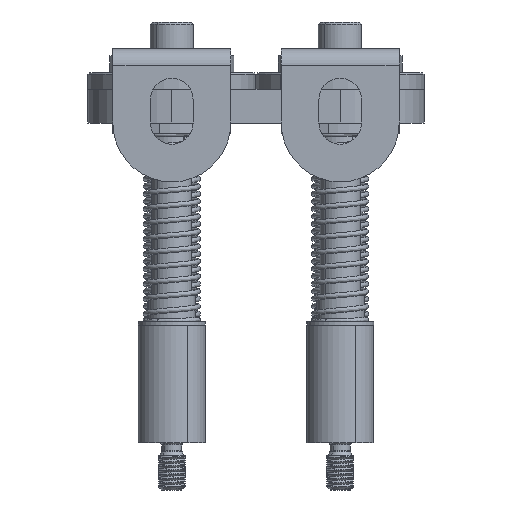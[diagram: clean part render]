
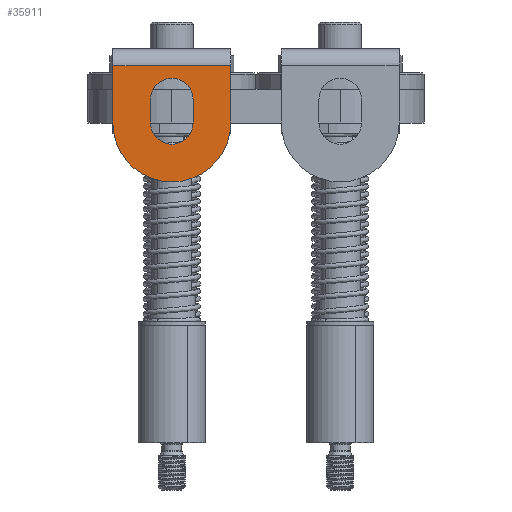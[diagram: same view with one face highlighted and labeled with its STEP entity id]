
A CAD part, left-side view. The second image highlights one B-rep face of the part: STEP entity #35911.
In plain terms, the highlighted planar face has unit normal (-1, 0, 0).
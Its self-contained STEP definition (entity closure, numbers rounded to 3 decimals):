
#117 = ORIENTED_EDGE ( 'NONE', *, *, #44394, .T. ) ;
#557 = ORIENTED_EDGE ( 'NONE', *, *, #1394, .F. ) ;
#1394 = EDGE_CURVE ( 'NONE', #26271, #18491, #9783, .T. ) ;
#1450 = EDGE_CURVE ( 'NONE', #37765, #44992, #41689, .T. ) ;
#2421 = FACE_BOUND ( 'NONE', #45781, .T. ) ;
#2662 = CIRCLE ( 'NONE', #5164, 17.5 ) ;
#2680 = DIRECTION ( 'NONE',  ( -1., 0., 0. ) ) ;
#2725 = DIRECTION ( 'NONE',  ( 0., 1., 0. ) ) ;
#3159 = DIRECTION ( 'NONE',  ( 0., 0., 1. ) ) ;
#4922 = CARTESIAN_POINT ( 'NONE',  ( -116.5, 7.5, 17. ) ) ;
#5164 = AXIS2_PLACEMENT_3D ( 'NONE', #42597, #47304, #34995 ) ;
#5822 = CARTESIAN_POINT ( 'NONE',  ( -116.5, 18.7, 7. ) ) ;
#5849 = CARTESIAN_POINT ( 'NONE',  ( -116.5, 25., 0. ) ) ;
#5870 = CARTESIAN_POINT ( 'NONE',  ( -116.5, 31.3, 0. ) ) ;
#6408 = DIRECTION ( 'NONE',  ( 0., 0., -1. ) ) ;
#6432 = CARTESIAN_POINT ( 'NONE',  ( -116.5, 18.7, 7. ) ) ;
#6745 = EDGE_CURVE ( 'NONE', #16830, #37765, #2662, .T. ) ;
#8298 = VERTEX_POINT ( 'NONE', #20191 ) ;
#8437 = ORIENTED_EDGE ( 'NONE', *, *, #47859, .F. ) ;
#8738 = DIRECTION ( 'NONE',  ( 0., 0., 1. ) ) ;
#8889 = CARTESIAN_POINT ( 'NONE',  ( -116.5, 42.5, 0. ) ) ;
#9783 = LINE ( 'NONE', #25778, #9880 ) ;
#9880 = VECTOR ( 'NONE', #41758, 1000. ) ;
#10125 = VECTOR ( 'NONE', #6408, 1000. ) ;
#11393 = CIRCLE ( 'NONE', #20580, 6.3 ) ;
#11409 = DIRECTION ( 'NONE',  ( -1., 0., 0. ) ) ;
#11557 = DIRECTION ( 'NONE',  ( 0., 0., 1. ) ) ;
#12229 = ORIENTED_EDGE ( 'NONE', *, *, #25179, .F. ) ;
#12343 = EDGE_CURVE ( 'NONE', #24898, #17105, #26361, .T. ) ;
#12620 = EDGE_LOOP ( 'NONE', ( #117, #25233, #46656, #44989, #30690 ) ) ;
#14204 = LINE ( 'NONE', #30208, #26886 ) ;
#14499 = CARTESIAN_POINT ( 'NONE',  ( -116.5, 18.7, 0. ) ) ;
#14600 = CIRCLE ( 'NONE', #37194, 6.3 ) ;
#15127 = DIRECTION ( 'NONE',  ( -1., 0., 0. ) ) ;
#16830 = VERTEX_POINT ( 'NONE', #8889 ) ;
#17105 = VERTEX_POINT ( 'NONE', #30645 ) ;
#18491 = VERTEX_POINT ( 'NONE', #5870 ) ;
#18505 = CARTESIAN_POINT ( 'NONE',  ( -116.5, 31.3, 7. ) ) ;
#18733 = LINE ( 'NONE', #47040, #10125 ) ;
#20191 = CARTESIAN_POINT ( 'NONE',  ( -116.5, 25., 13.3 ) ) ;
#20580 = AXIS2_PLACEMENT_3D ( 'NONE', #33647, #49641, #8738 ) ;
#21451 = EDGE_CURVE ( 'NONE', #17105, #16830, #18733, .T. ) ;
#22129 = CARTESIAN_POINT ( 'NONE',  ( -116.5, 25., -17.5 ) ) ;
#22208 = VERTEX_POINT ( 'NONE', #5822 ) ;
#24898 = VERTEX_POINT ( 'NONE', #4922 ) ;
#25179 = EDGE_CURVE ( 'NONE', #18491, #35976, #14600, .T. ) ;
#25233 = ORIENTED_EDGE ( 'NONE', *, *, #12343, .T. ) ;
#25540 = DIRECTION ( 'NONE',  ( 0., 0., 1. ) ) ;
#25778 = CARTESIAN_POINT ( 'NONE',  ( -116.5, 31.3, 7. ) ) ;
#26271 = VERTEX_POINT ( 'NONE', #18505 ) ;
#26314 = FACE_OUTER_BOUND ( 'NONE', #12620, .T. ) ;
#26361 = LINE ( 'NONE', #42598, #37096 ) ;
#26886 = VECTOR ( 'NONE', #3159, 1000. ) ;
#28943 = EDGE_CURVE ( 'NONE', #35976, #22208, #30299, .T. ) ;
#29399 = EDGE_CURVE ( 'NONE', #22208, #8298, #11393, .T. ) ;
#30208 = CARTESIAN_POINT ( 'NONE',  ( -116.5, 7.5, 20. ) ) ;
#30299 = LINE ( 'NONE', #6432, #46425 ) ;
#30358 = AXIS2_PLACEMENT_3D ( 'NONE', #42877, #11409, #31840 ) ;
#30645 = CARTESIAN_POINT ( 'NONE',  ( -116.5, 42.5, 17. ) ) ;
#30690 = ORIENTED_EDGE ( 'NONE', *, *, #1450, .T. ) ;
#31238 = DIRECTION ( 'NONE',  ( -1., 0., 0. ) ) ;
#31840 = DIRECTION ( 'NONE',  ( 0., 0., 1. ) ) ;
#32398 = ORIENTED_EDGE ( 'NONE', *, *, #29399, .F. ) ;
#33647 = CARTESIAN_POINT ( 'NONE',  ( -116.5, 25., 7. ) ) ;
#34561 = CARTESIAN_POINT ( 'NONE',  ( -116.5, 25., 0. ) ) ;
#34995 = DIRECTION ( 'NONE',  ( 0., 0., 1. ) ) ;
#35911 = ADVANCED_FACE ( 'NONE', ( #2421, #26314 ), #41782, .T. ) ;
#35938 = ORIENTED_EDGE ( 'NONE', *, *, #28943, .F. ) ;
#35976 = VERTEX_POINT ( 'NONE', #14499 ) ;
#37044 = CIRCLE ( 'NONE', #30358, 6.3 ) ;
#37096 = VECTOR ( 'NONE', #2725, 1000. ) ;
#37194 = AXIS2_PLACEMENT_3D ( 'NONE', #34561, #15127, #46089 ) ;
#37765 = VERTEX_POINT ( 'NONE', #22129 ) ;
#41689 = CIRCLE ( 'NONE', #45050, 17.5 ) ;
#41758 = DIRECTION ( 'NONE',  ( 0., 0., -1. ) ) ;
#41782 = PLANE ( 'NONE',  #50476 ) ;
#42597 = CARTESIAN_POINT ( 'NONE',  ( -116.5, 25., 0. ) ) ;
#42598 = CARTESIAN_POINT ( 'NONE',  ( -116.5, 25., 17. ) ) ;
#42877 = CARTESIAN_POINT ( 'NONE',  ( -116.5, 25., 7. ) ) ;
#44394 = EDGE_CURVE ( 'NONE', #44992, #24898, #14204, .T. ) ;
#44989 = ORIENTED_EDGE ( 'NONE', *, *, #6745, .T. ) ;
#44992 = VERTEX_POINT ( 'NONE', #49745 ) ;
#45050 = AXIS2_PLACEMENT_3D ( 'NONE', #51155, #31238, #11557 ) ;
#45781 = EDGE_LOOP ( 'NONE', ( #32398, #35938, #12229, #557, #8437 ) ) ;
#46089 = DIRECTION ( 'NONE',  ( 0., 0., 1. ) ) ;
#46293 = DIRECTION ( 'NONE',  ( 0., 0., 1. ) ) ;
#46425 = VECTOR ( 'NONE', #46293, 1000. ) ;
#46656 = ORIENTED_EDGE ( 'NONE', *, *, #21451, .T. ) ;
#47040 = CARTESIAN_POINT ( 'NONE',  ( -116.5, 42.5, 0. ) ) ;
#47304 = DIRECTION ( 'NONE',  ( -1., 0., 0. ) ) ;
#47859 = EDGE_CURVE ( 'NONE', #8298, #26271, #37044, .T. ) ;
#49641 = DIRECTION ( 'NONE',  ( -1., 0., 0. ) ) ;
#49745 = CARTESIAN_POINT ( 'NONE',  ( -116.5, 7.5, 0. ) ) ;
#50476 = AXIS2_PLACEMENT_3D ( 'NONE', #5849, #2680, #25540 ) ;
#51155 = CARTESIAN_POINT ( 'NONE',  ( -116.5, 25., 0. ) ) ;
